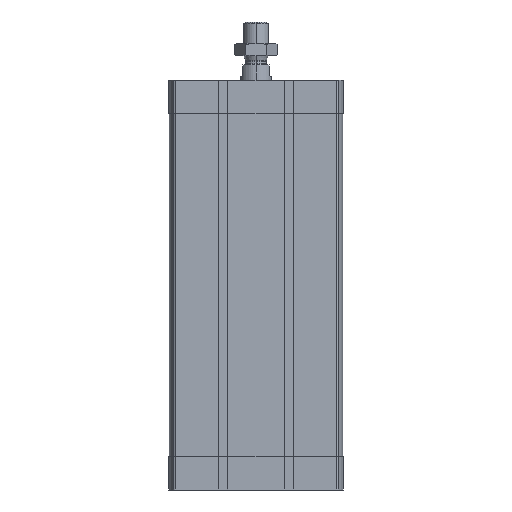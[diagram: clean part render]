
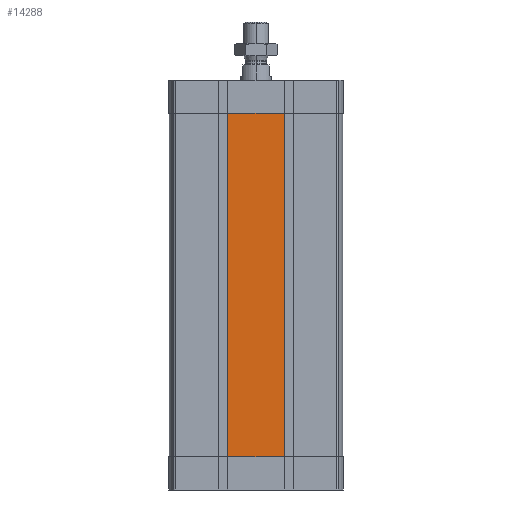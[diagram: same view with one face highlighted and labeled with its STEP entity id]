
A CAD part, left-side view. The second image highlights one B-rep face of the part: STEP entity #14288.
In plain terms, the highlighted planar face has unit normal (-1, 0, 0).
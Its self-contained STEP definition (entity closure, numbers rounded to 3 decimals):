
#133 = ORIENTED_EDGE ( 'NONE', *, *, #9638, .F. ) ;
#135 = LINE ( 'NONE', #17960, #2371 ) ;
#329 = EDGE_CURVE ( 'NONE', #13741, #11822, #20854, .T. ) ;
#1099 = DIRECTION ( 'NONE',  ( -1., 0., 0. ) ) ;
#2371 = VECTOR ( 'NONE', #13031, 1000. ) ;
#2937 = FACE_OUTER_BOUND ( 'NONE', #15918, .T. ) ;
#3031 = CARTESIAN_POINT ( 'NONE',  ( -56.5, 18.345, -245.5 ) ) ;
#5587 = VECTOR ( 'NONE', #21063, 1000. ) ;
#6039 = PLANE ( 'NONE',  #13025 ) ;
#6298 = CARTESIAN_POINT ( 'NONE',  ( -56.5, 18.345, -245.5 ) ) ;
#7516 = CARTESIAN_POINT ( 'NONE',  ( -56.5, 18.345, -21.5 ) ) ;
#8041 = VECTOR ( 'NONE', #11266, 1000. ) ;
#8203 = CARTESIAN_POINT ( 'NONE',  ( -56.5, 18.345, -21.5 ) ) ;
#9576 = DIRECTION ( 'NONE',  ( 0., 0., 1. ) ) ;
#9638 = EDGE_CURVE ( 'NONE', #18896, #16100, #17729, .T. ) ;
#11266 = DIRECTION ( 'NONE',  ( 0., -1., 0. ) ) ;
#11822 = VERTEX_POINT ( 'NONE', #17804 ) ;
#12817 = ORIENTED_EDGE ( 'NONE', *, *, #14879, .T. ) ;
#12832 = VECTOR ( 'NONE', #9576, 1000. ) ;
#13025 = AXIS2_PLACEMENT_3D ( 'NONE', #14203, #1099, #20953 ) ;
#13031 = DIRECTION ( 'NONE',  ( 0., -1., 0. ) ) ;
#13741 = VERTEX_POINT ( 'NONE', #18842 ) ;
#14203 = CARTESIAN_POINT ( 'NONE',  ( -56.5, 18.345, -245.5 ) ) ;
#14288 = ADVANCED_FACE ( 'NONE', ( #2937 ), #6039, .T. ) ;
#14879 = EDGE_CURVE ( 'NONE', #18896, #13741, #135, .T. ) ;
#15882 = LINE ( 'NONE', #7516, #8041 ) ;
#15918 = EDGE_LOOP ( 'NONE', ( #17178, #133, #12817, #16309 ) ) ;
#16100 = VERTEX_POINT ( 'NONE', #8203 ) ;
#16309 = ORIENTED_EDGE ( 'NONE', *, *, #329, .T. ) ;
#16779 = EDGE_CURVE ( 'NONE', #16100, #11822, #15882, .T. ) ;
#17178 = ORIENTED_EDGE ( 'NONE', *, *, #16779, .F. ) ;
#17729 = LINE ( 'NONE', #3031, #12832 ) ;
#17804 = CARTESIAN_POINT ( 'NONE',  ( -56.5, -18.345, -21.5 ) ) ;
#17960 = CARTESIAN_POINT ( 'NONE',  ( -56.5, 18.345, -245.5 ) ) ;
#18842 = CARTESIAN_POINT ( 'NONE',  ( -56.5, -18.345, -245.5 ) ) ;
#18896 = VERTEX_POINT ( 'NONE', #6298 ) ;
#19035 = CARTESIAN_POINT ( 'NONE',  ( -56.5, -18.345, -245.5 ) ) ;
#20854 = LINE ( 'NONE', #19035, #5587 ) ;
#20953 = DIRECTION ( 'NONE',  ( 0., 0., 1. ) ) ;
#21063 = DIRECTION ( 'NONE',  ( 0., 0., 1. ) ) ;
